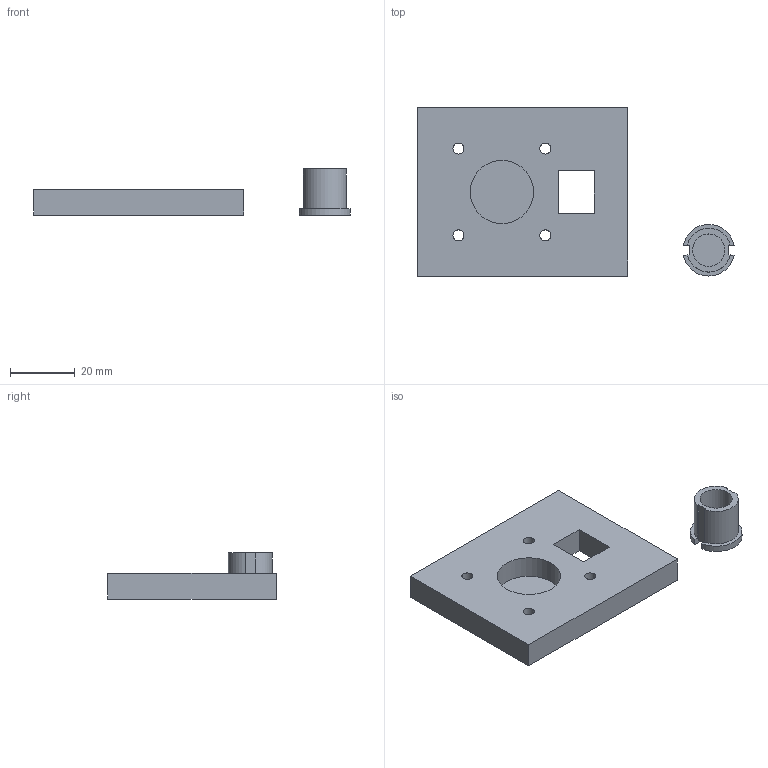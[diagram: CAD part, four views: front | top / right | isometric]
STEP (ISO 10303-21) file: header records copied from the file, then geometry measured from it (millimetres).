
FILE_DESCRIPTION(('Open CASCADE Model'),'2;1');
FILE_NAME('Open CASCADE Shape Model','2026-11-12T20:35:43',('Author'),( 'Open CASCADE'),'Open CASCADE STEP processor 7.9','Open CASCADE 7.9' ,'Unknown');
FILE_SCHEMA(('AUTOMOTIVE_DESIGN { 1 0 10303 214 1 1 1 1 }'));
Length unit declared in the file: millimetre
Products named in the file (3): Open CASCADE STEP translator 7.9 6; Open CASCADE STEP translator 7.9 6.1; Open CASCADE STEP translator 7.9 6.2
Assembly tree (2 placements, depth 2):
  Open CASCADE STEP translator 7.9 6
    Open CASCADE STEP translator 7.9 6.1
    Open CASCADE STEP translator 7.9 6.2
Bounding box: 97.86 x 52 x 14.3 mm (x, y, z)
Volume: 24578.5 mm3; surface area: 10873.6 mm2
Topology: 2 solids, 2 shells, 32 faces, 78 edges, 52 vertices
Faces by surface type: plane 22, cylinder 10
Full cylindrical faces by diameter (mm): 3.4 x4, 10 x1, 19.6 x1
Entity records: 2038 total; most frequent: CARTESIAN_POINT 357, DIRECTION 318, LINE 194, VECTOR 194, ORIENTED_EDGE 156, PCURVE 156, DEFINITIONAL_REPRESENTATION 156, EDGE_CURVE 78
